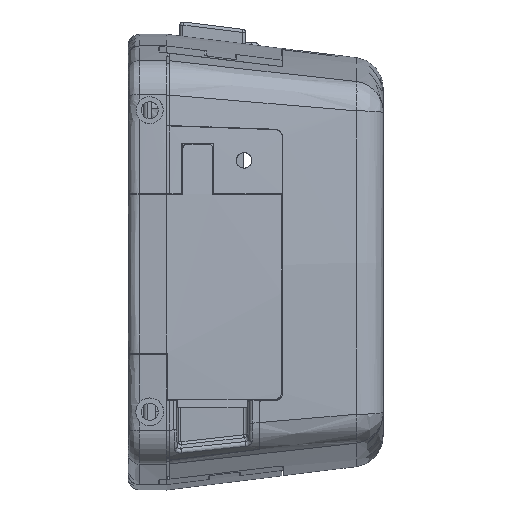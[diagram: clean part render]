
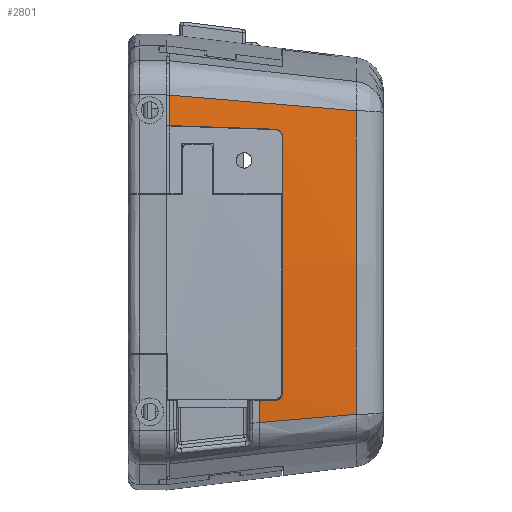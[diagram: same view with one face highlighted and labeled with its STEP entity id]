
A CAD part, left-side view. The second image highlights one B-rep face of the part: STEP entity #2801.
In plain terms, the highlighted free-form (B-spline) face has degree [2, 1] with [3, 2] control points.
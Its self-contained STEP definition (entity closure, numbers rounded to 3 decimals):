
#2801=ADVANCED_FACE($,(#6582),#53279,.T.);
#6582=FACE_OUTER_BOUND($,#10479,.T.);
#10479=EDGE_LOOP($,(#23105,#23106,#23107,#23108,#23109,#23110,#23111,#23112,
#23113,#23114));
#23105=ORIENTED_EDGE($,*,*,#38368,.T.);
#23106=ORIENTED_EDGE($,*,*,#38321,.F.);
#23107=ORIENTED_EDGE($,*,*,#38366,.F.);
#23108=ORIENTED_EDGE($,*,*,#38375,.T.);
#23109=ORIENTED_EDGE($,*,*,#38374,.T.);
#23110=ORIENTED_EDGE($,*,*,#38373,.T.);
#23111=ORIENTED_EDGE($,*,*,#38372,.T.);
#23112=ORIENTED_EDGE($,*,*,#38371,.T.);
#23113=ORIENTED_EDGE($,*,*,#38370,.T.);
#23114=ORIENTED_EDGE($,*,*,#38369,.T.);
#38321=EDGE_CURVE($,#46846,#46845,#63196,.T.);
#38366=EDGE_CURVE($,#46884,#46846,#58107,.T.);
#38368=EDGE_CURVE($,#46885,#46845,#58108,.T.);
#38369=EDGE_CURVE($,#46886,#46885,#58109,.T.);
#38370=EDGE_CURVE($,#46887,#46886,#63211,.T.);
#38371=EDGE_CURVE($,#46888,#46887,#58110,.T.);
#38372=EDGE_CURVE($,#46889,#46888,#58111,.T.);
#38373=EDGE_CURVE($,#46890,#46889,#63212,.T.);
#38374=EDGE_CURVE($,#46891,#46890,#58112,.T.);
#38375=EDGE_CURVE($,#46884,#46891,#63213,.T.);
#46845=VERTEX_POINT($,#104123);
#46846=VERTEX_POINT($,#104124);
#46884=VERTEX_POINT($,#104162);
#46885=VERTEX_POINT($,#104163);
#46886=VERTEX_POINT($,#104164);
#46887=VERTEX_POINT($,#104165);
#46888=VERTEX_POINT($,#104166);
#46889=VERTEX_POINT($,#104167);
#46890=VERTEX_POINT($,#104168);
#46891=VERTEX_POINT($,#104169);
#53279=(
BOUNDED_SURFACE()
B_SPLINE_SURFACE(2,1,((#101439,#101440),(#101441,#101442),(#101443,#101444)),
.UNSPECIFIED.,.F.,.F.,.F.)
B_SPLINE_SURFACE_WITH_KNOTS((3,3),(2,2),(920.057,962.575),
(2.427,26.695),.UNSPECIFIED.)
GEOMETRIC_REPRESENTATION_ITEM()
RATIONAL_B_SPLINE_SURFACE(((1.,1.),(0.997,0.997),
(1.,1.)))
REPRESENTATION_ITEM($)
SURFACE()
);
#58107=B_SPLINE_CURVE_WITH_KNOTS($,3,(#97012,#97013,#97014,#97015),.UNSPECIFIED.,
.F.,.F.,(4,4),(0.,1.),.UNSPECIFIED.);
#58108=B_SPLINE_CURVE_WITH_KNOTS($,3,(#97020,#97021,#97022,#97023),.UNSPECIFIED.,
.F.,.F.,(4,4),(0.,1.),.UNSPECIFIED.);
#58109=B_SPLINE_CURVE_WITH_KNOTS($,3,(#97024,#97025,#97026,#97027),.UNSPECIFIED.,
.F.,.F.,(4,4),(0.,1.),.UNSPECIFIED.);
#58110=B_SPLINE_CURVE_WITH_KNOTS($,3,(#97031,#97032,#97033,#97034),.UNSPECIFIED.,
.F.,.F.,(4,4),(0.,1.),.UNSPECIFIED.);
#58111=B_SPLINE_CURVE_WITH_KNOTS($,3,(#97035,#97036,#97037,#97038),.UNSPECIFIED.,
.F.,.F.,(4,4),(0.,1.),.UNSPECIFIED.);
#58112=B_SPLINE_CURVE_WITH_KNOTS($,3,(#97042,#97043,#97044,#97045),.UNSPECIFIED.,
.F.,.F.,(4,4),(0.,1.),.UNSPECIFIED.);
#63196=(
BOUNDED_CURVE()
B_SPLINE_CURVE(2,(#96844,#96845,#96846),.UNSPECIFIED.,.F.,.F.)
B_SPLINE_CURVE_WITH_KNOTS((3,3),(-2.783,0.),.UNSPECIFIED.)
CURVE()
GEOMETRIC_REPRESENTATION_ITEM()
RATIONAL_B_SPLINE_CURVE((1.,1.,1.))
REPRESENTATION_ITEM($)
);
#63211=(
BOUNDED_CURVE()
B_SPLINE_CURVE(2,(#97028,#97029,#97030),.UNSPECIFIED.,.F.,.F.)
B_SPLINE_CURVE_WITH_KNOTS((3,3),(0.,33.087),.UNSPECIFIED.)
CURVE()
GEOMETRIC_REPRESENTATION_ITEM()
RATIONAL_B_SPLINE_CURVE((1.,0.998,1.))
REPRESENTATION_ITEM($)
);
#63212=(
BOUNDED_CURVE()
B_SPLINE_CURVE(2,(#97039,#97040,#97041),.UNSPECIFIED.,.F.,.F.)
B_SPLINE_CURVE_WITH_KNOTS((3,3),(0.,3.946),.UNSPECIFIED.)
CURVE()
GEOMETRIC_REPRESENTATION_ITEM()
RATIONAL_B_SPLINE_CURVE((1.,1.,1.))
REPRESENTATION_ITEM($)
);
#63213=(
BOUNDED_CURVE()
B_SPLINE_CURVE(2,(#97046,#97047,#97048),.UNSPECIFIED.,.F.,.F.)
B_SPLINE_CURVE_WITH_KNOTS((3,3),(-39.253,0.),.UNSPECIFIED.)
CURVE()
GEOMETRIC_REPRESENTATION_ITEM()
RATIONAL_B_SPLINE_CURVE((1.,0.998,1.))
REPRESENTATION_ITEM($)
);
#96844=CARTESIAN_POINT($,(-54.417,-22.762,-15.597));
#96845=CARTESIAN_POINT($,(-54.524,-22.762,-14.21));
#96846=CARTESIAN_POINT($,(-54.618,-22.762,-12.822));
#97012=CARTESIAN_POINT($,(-52.96,-35.25,-14.531));
#97013=CARTESIAN_POINT($,(-53.446,-31.087,-14.886));
#97014=CARTESIAN_POINT($,(-53.931,-26.925,-15.242));
#97015=CARTESIAN_POINT($,(-54.417,-22.762,-15.597));
#97020=CARTESIAN_POINT($,(-54.373,-24.797,-12.751));
#97021=CARTESIAN_POINT($,(-54.455,-24.119,-12.774));
#97022=CARTESIAN_POINT($,(-54.537,-23.441,-12.798));
#97023=CARTESIAN_POINT($,(-54.618,-22.762,-12.822));
#97024=CARTESIAN_POINT($,(-54.32,-25.762,-11.751));
#97025=CARTESIAN_POINT($,(-54.285,-25.762,-12.289));
#97026=CARTESIAN_POINT($,(-54.308,-25.336,-12.732));
#97027=CARTESIAN_POINT($,(-54.373,-24.797,-12.751));
#97028=CARTESIAN_POINT($,(-54.616,-25.762,21.318));
#97029=CARTESIAN_POINT($,(-55.386,-25.762,4.775));
#97030=CARTESIAN_POINT($,(-54.32,-25.762,-11.751));
#97031=CARTESIAN_POINT($,(-54.686,-24.797,22.317));
#97032=CARTESIAN_POINT($,(-54.621,-25.336,22.298));
#97033=CARTESIAN_POINT($,(-54.59,-25.762,21.856));
#97034=CARTESIAN_POINT($,(-54.616,-25.762,21.318));
#97035=CARTESIAN_POINT($,(-56.338,-11.162,22.793));
#97036=CARTESIAN_POINT($,(-55.788,-15.707,22.634));
#97037=CARTESIAN_POINT($,(-55.237,-20.252,22.476));
#97038=CARTESIAN_POINT($,(-54.686,-24.797,22.317));
#97039=CARTESIAN_POINT($,(-56.11,-11.162,26.733));
#97040=CARTESIAN_POINT($,(-56.237,-11.162,24.764));
#97041=CARTESIAN_POINT($,(-56.338,-11.162,22.793));
#97042=CARTESIAN_POINT($,(-53.272,-35.25,24.692));
#97043=CARTESIAN_POINT($,(-54.22,-27.221,25.372));
#97044=CARTESIAN_POINT($,(-55.166,-19.192,26.053));
#97045=CARTESIAN_POINT($,(-56.11,-11.162,26.733));
#97046=CARTESIAN_POINT($,(-52.96,-35.25,-14.531));
#97047=CARTESIAN_POINT($,(-54.414,-35.25,5.07));
#97048=CARTESIAN_POINT($,(-53.272,-35.25,24.692));
#101439=CARTESIAN_POINT($,(-52.888,-35.25,-15.479));
#101440=CARTESIAN_POINT($,(-55.837,-11.162,-15.707));
#101441=CARTESIAN_POINT($,(-54.514,-35.25,5.522));
#101442=CARTESIAN_POINT($,(-57.478,-11.162,5.503));
#101443=CARTESIAN_POINT($,(-53.159,-35.25,26.543));
#101444=CARTESIAN_POINT($,(-56.11,-11.162,26.733));
#104123=CARTESIAN_POINT($,(-54.618,-22.762,-12.822));
#104124=CARTESIAN_POINT($,(-54.417,-22.762,-15.597));
#104162=CARTESIAN_POINT($,(-52.96,-35.25,-14.531));
#104163=CARTESIAN_POINT($,(-54.373,-24.797,-12.751));
#104164=CARTESIAN_POINT($,(-54.32,-25.762,-11.751));
#104165=CARTESIAN_POINT($,(-54.616,-25.762,21.318));
#104166=CARTESIAN_POINT($,(-54.686,-24.797,22.317));
#104167=CARTESIAN_POINT($,(-56.338,-11.162,22.793));
#104168=CARTESIAN_POINT($,(-56.11,-11.162,26.733));
#104169=CARTESIAN_POINT($,(-53.272,-35.25,24.692));
